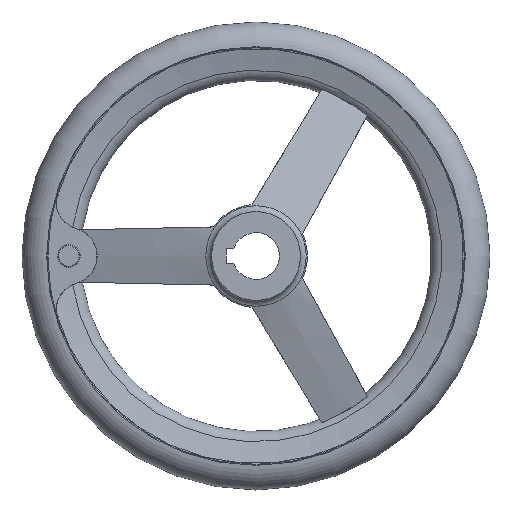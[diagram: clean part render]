
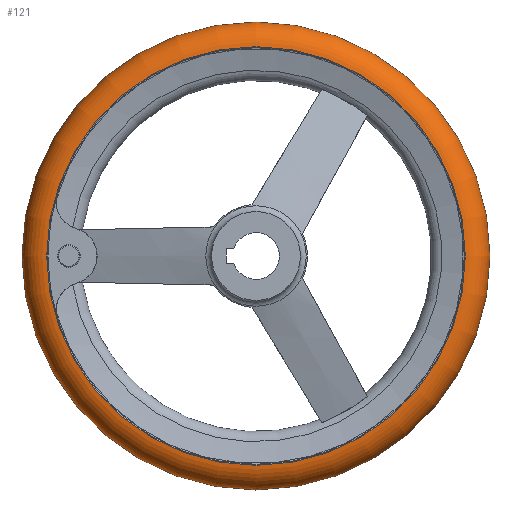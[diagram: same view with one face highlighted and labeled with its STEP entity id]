
A CAD part, left-side view. The second image highlights one B-rep face of the part: STEP entity #121.
In plain terms, the highlighted toroidal (fillet/blend) face has major radius 88.99 mm and minor radius 11.01 mm.
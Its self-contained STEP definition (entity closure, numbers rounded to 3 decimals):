
#121 = ADVANCED_FACE( '', ( #249, #250, #251 ), #252, .T. );
#249 = FACE_BOUND( '', #423, .T. );
#250 = FACE_OUTER_BOUND( '', #424, .T. );
#251 = FACE_OUTER_BOUND( '', #425, .T. );
#252 = TOROIDAL_SURFACE( '', #426, 88.99, 11.01 );
#423 = VERTEX_LOOP( '', #805 );
#424 = EDGE_LOOP( '', ( #806 ) );
#425 = EDGE_LOOP( '', ( #807 ) );
#426 = AXIS2_PLACEMENT_3D( '', #808, #809, #810 );
#805 = VERTEX_POINT( '', #1001 );
#806 = ORIENTED_EDGE( '', *, *, #1000, .T. );
#807 = ORIENTED_EDGE( '', *, *, #995, .F. );
#808 = CARTESIAN_POINT( '', ( 34., 0., 0. ) );
#809 = DIRECTION( '', ( 1., 0., 0. ) );
#810 = DIRECTION( '', ( 0., 1., 0. ) );
#995 = EDGE_CURVE( '', #1213, #1213, #1214, .T. );
#1000 = EDGE_CURVE( '', #1222, #1222, #1223, .T. );
#1001 = CARTESIAN_POINT( '', ( 34., 100., 0. ) );
#1213 = VERTEX_POINT( '', #1964 );
#1214 = CIRCLE( '', #1965, 89.458 );
#1222 = VERTEX_POINT( '', #1973 );
#1223 = CIRCLE( '', #1974, 89.458 );
#1964 = CARTESIAN_POINT( '', ( 45., 89.458, 0. ) );
#1965 = AXIS2_PLACEMENT_3D( '', #2148, #2149, #2150 );
#1973 = CARTESIAN_POINT( '', ( 23., 89.458, 0. ) );
#1974 = AXIS2_PLACEMENT_3D( '', #2163, #2164, #2165 );
#2148 = CARTESIAN_POINT( '', ( 45., 0., 0. ) );
#2149 = DIRECTION( '', ( 1., 0., 0. ) );
#2150 = DIRECTION( '', ( 0., 1., 0. ) );
#2163 = CARTESIAN_POINT( '', ( 23., 0., 0. ) );
#2164 = DIRECTION( '', ( 1., 0., 0. ) );
#2165 = DIRECTION( '', ( 0., 1., 0. ) );
